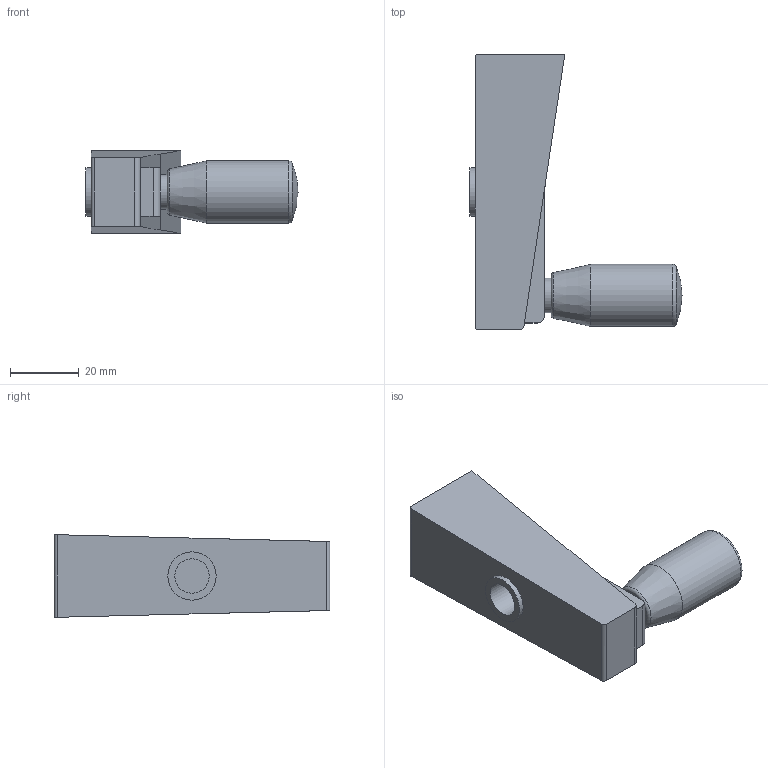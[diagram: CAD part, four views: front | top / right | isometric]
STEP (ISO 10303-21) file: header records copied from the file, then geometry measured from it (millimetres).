
FILE_DESCRIPTION( ( 'STEP AP203' ), '1' );
FILE_NAME( 'C:/Temp/Ganter_Step_05_03_2020/data/1_3/gn_510/Cranked handle GN 510-80-B10.stp', '2020-03-05T10:45:18', ( 'License CC BY-ND 4.0' ), ( 'CADENAS' ), ' ', 'PARTsolutions', ' ' );
FILE_SCHEMA( ( 'CONFIG_CONTROL_DESIGN' ) );
Length unit declared in the file: millimetre
Products named in the file (1): _Cranked handle GN 510-80-B10
Bounding box: 61.5 x 80 x 24 mm (x, y, z)
Volume: 44823.1 mm3; surface area: 10706.9 mm2
Topology: 1 solids, 1 shells, 28 faces, 67 edges, 44 vertices
Faces by surface type: plane 16, cylinder 8, torus 2, sphere 1, cone 1
Full cylindrical faces by diameter (mm): 10 x2, 14 x1, 18 x1
Entity records: 795 total; most frequent: DIRECTION 133, CARTESIAN_POINT 127, ORIENTED_EDGE 112, EDGE_CURVE 56, AXIS2_PLACEMENT_3D 48, VERTEX_POINT 42, EDGE_LOOP 39, LINE 37
